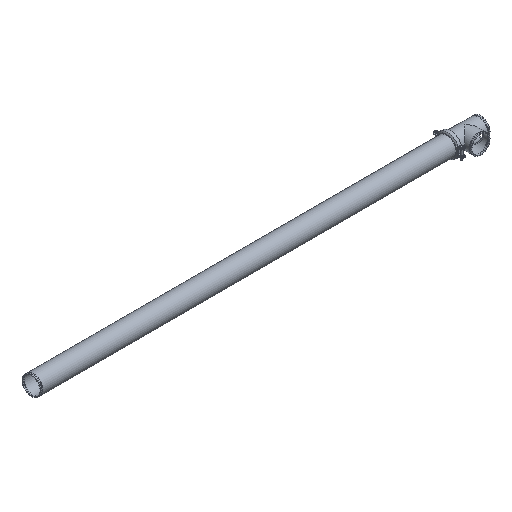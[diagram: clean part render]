
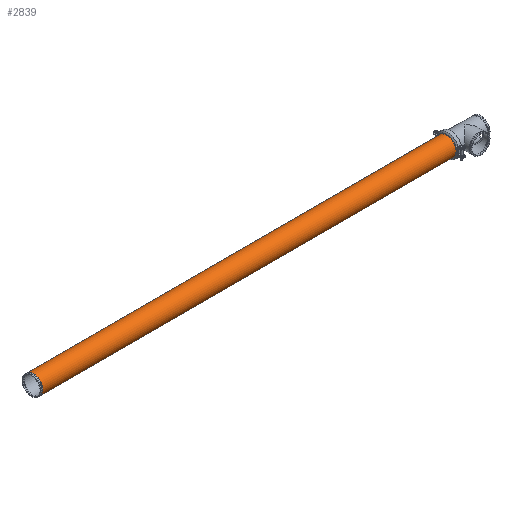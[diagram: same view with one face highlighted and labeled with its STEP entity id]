
A CAD part, isometric view. The second image highlights one B-rep face of the part: STEP entity #2839.
In plain terms, the highlighted cylindrical face has radius 136.525 mm (diameter 273.05 mm), a full revolution.
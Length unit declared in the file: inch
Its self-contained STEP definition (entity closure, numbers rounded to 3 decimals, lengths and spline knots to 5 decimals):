
#353=FACE_OUTER_BOUND('',#530,.T.);
#530=EDGE_LOOP('',(#2436,#2437,#2438,#2439,#2440,#2441));
#719=LINE('',#5539,#900);
#900=VECTOR('',#4070,5.375);
#1033=CIRCLE('',#3248,5.375);
#1034=CIRCLE('',#3249,5.375);
#1035=CIRCLE('',#3251,5.375);
#1036=CIRCLE('',#3252,5.375);
#1297=VERTEX_POINT('',#5530);
#1298=VERTEX_POINT('',#5531);
#1299=VERTEX_POINT('',#5535);
#1300=VERTEX_POINT('',#5536);
#1681=EDGE_CURVE('',#1297,#1298,#1033,.T.);
#1682=EDGE_CURVE('',#1298,#1297,#1034,.T.);
#1683=EDGE_CURVE('',#1299,#1300,#1035,.T.);
#1684=EDGE_CURVE('',#1300,#1299,#1036,.T.);
#1685=EDGE_CURVE('',#1300,#1298,#719,.T.);
#2436=ORIENTED_EDGE('',*,*,#1683,.F.);
#2437=ORIENTED_EDGE('',*,*,#1684,.F.);
#2438=ORIENTED_EDGE('',*,*,#1685,.T.);
#2439=ORIENTED_EDGE('',*,*,#1682,.T.);
#2440=ORIENTED_EDGE('',*,*,#1681,.T.);
#2441=ORIENTED_EDGE('',*,*,#1685,.F.);
#2540=CYLINDRICAL_SURFACE('',#3250,5.375);
#2839=ADVANCED_FACE('',(#353),#2540,.T.);
#3248=AXIS2_PLACEMENT_3D('',#5532,#4060,#4061);
#3249=AXIS2_PLACEMENT_3D('',#5533,#4062,#4063);
#3250=AXIS2_PLACEMENT_3D('',#5534,#4064,#4065);
#3251=AXIS2_PLACEMENT_3D('',#5537,#4066,#4067);
#3252=AXIS2_PLACEMENT_3D('',#5538,#4068,#4069);
#4060=DIRECTION('center_axis',(1.,0.,0.));
#4061=DIRECTION('ref_axis',(0.,0.,-1.));
#4062=DIRECTION('center_axis',(1.,0.,0.));
#4063=DIRECTION('ref_axis',(0.,0.,-1.));
#4064=DIRECTION('center_axis',(1.,0.,0.));
#4065=DIRECTION('ref_axis',(0.,1.,0.));
#4066=DIRECTION('center_axis',(1.,0.,0.));
#4067=DIRECTION('ref_axis',(0.,0.,-1.));
#4068=DIRECTION('center_axis',(1.,0.,0.));
#4069=DIRECTION('ref_axis',(0.,0.,-1.));
#4070=DIRECTION('',(-1.,0.,0.));
#5530=CARTESIAN_POINT('',(-118.781,5.375,0.));
#5531=CARTESIAN_POINT('',(-118.781,-5.375,0.));
#5532=CARTESIAN_POINT('Origin',(-118.781,0.,0.));
#5533=CARTESIAN_POINT('Origin',(-118.781,0.,0.));
#5534=CARTESIAN_POINT('Origin',(0.,0.,0.));
#5535=CARTESIAN_POINT('',(118.781,5.375,0.));
#5536=CARTESIAN_POINT('',(118.781,-5.375,0.));
#5537=CARTESIAN_POINT('Origin',(118.781,0.,0.));
#5538=CARTESIAN_POINT('Origin',(118.781,0.,0.));
#5539=CARTESIAN_POINT('',(0.,-5.375,0.));
